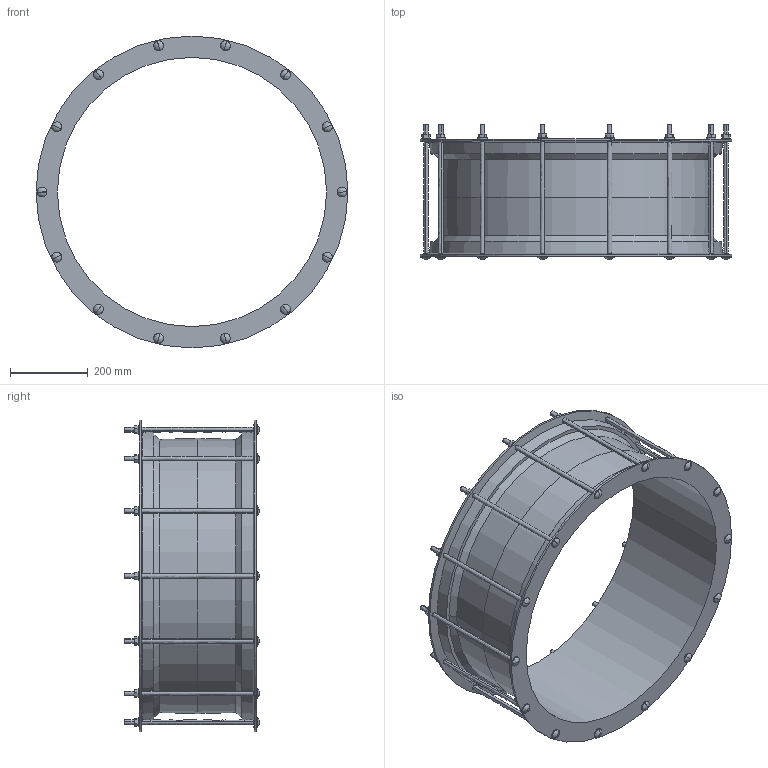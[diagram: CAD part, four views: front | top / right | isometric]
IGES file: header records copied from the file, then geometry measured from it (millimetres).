
Start section:  PTC IGES file: 675_692.igs
Global section: file name: 675_692.igs; native system: Creo Parametric by PTC Inc.; preprocessor: 2016130; author: mfairey; organization: Unknown; date: 20181218.154419; units: millimetre
Bounding box: 804 x 348 x 804 mm (x, y, z)
Surface area: 1950623.2 mm2 (no closed solid volume)
Topology: 0 solids, 0 shells, 292 faces, 1388 edges, 1360 vertices
Faces by surface type: revolution 162, bspline 130
